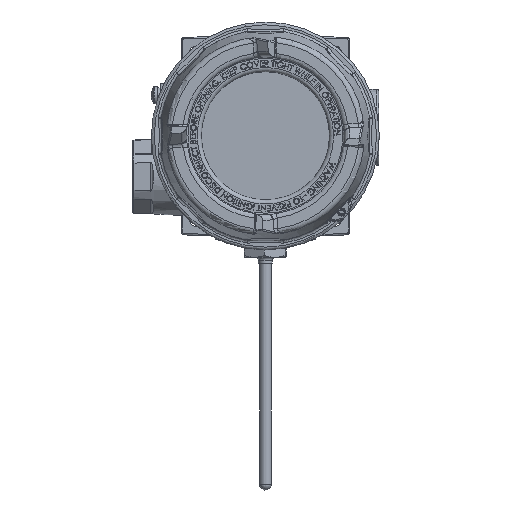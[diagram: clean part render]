
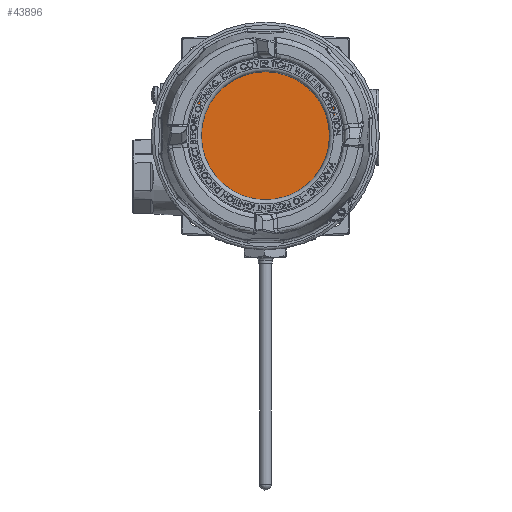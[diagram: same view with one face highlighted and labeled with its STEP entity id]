
A CAD part, top view. The second image highlights one B-rep face of the part: STEP entity #43896.
In plain terms, the highlighted planar face has unit normal (0, 0, 1).
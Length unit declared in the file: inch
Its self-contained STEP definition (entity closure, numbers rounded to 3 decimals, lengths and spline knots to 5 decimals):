
#14452 = DIRECTION ( 'NONE',  ( 0., 0., 1. ) ) ;
#15926 = CARTESIAN_POINT ( 'NONE',  ( 0., 0., 3.783 ) ) ;
#17795 = AXIS2_PLACEMENT_3D ( 'NONE', #15926, #14452, #49873 ) ;
#21532 = ORIENTED_EDGE ( 'NONE', *, *, #51680, .T. ) ;
#22615 = CIRCLE ( 'NONE', #17795, 1.775 ) ;
#33363 = VERTEX_POINT ( 'NONE', #38647 ) ;
#35479 = AXIS2_PLACEMENT_3D ( 'NONE', #71242, #48630, #60337 ) ;
#38647 = CARTESIAN_POINT ( 'NONE',  ( 1.775, 0., 3.783 ) ) ;
#43896 = ADVANCED_FACE ( 'NONE', ( #72368 ), #65598, .F. ) ;
#48630 = DIRECTION ( 'NONE',  ( 0., 0., -1. ) ) ;
#49873 = DIRECTION ( 'NONE',  ( 1., 0., 0. ) ) ;
#51680 = EDGE_CURVE ( 'NONE', #33363, #33363, #22615, .T. ) ;
#60337 = DIRECTION ( 'NONE',  ( 1., 0., 0. ) ) ;
#65598 = PLANE ( 'NONE',  #35479 ) ;
#71242 = CARTESIAN_POINT ( 'NONE',  ( 0., 0., 3.783 ) ) ;
#72290 = EDGE_LOOP ( 'NONE', ( #21532 ) ) ;
#72368 = FACE_OUTER_BOUND ( 'NONE', #72290, .T. ) ;
